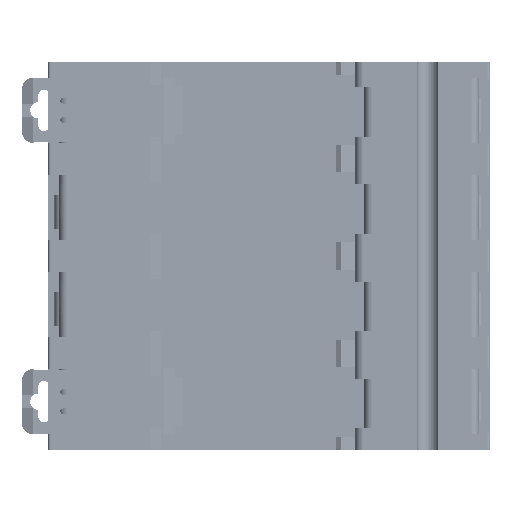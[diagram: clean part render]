
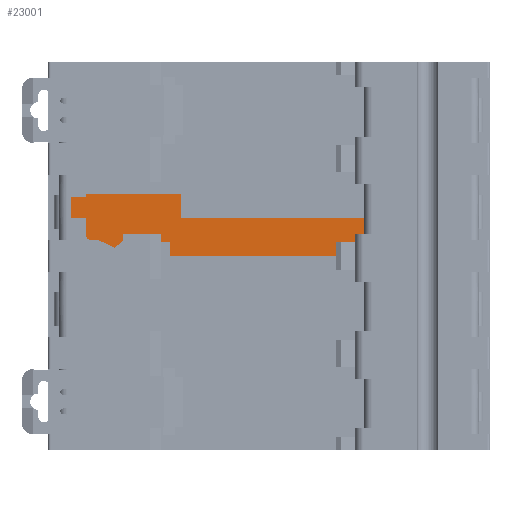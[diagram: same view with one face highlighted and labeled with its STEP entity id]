
A CAD part, front view. The second image highlights one B-rep face of the part: STEP entity #23001.
In plain terms, the highlighted planar face has unit normal (0, -1, 0).
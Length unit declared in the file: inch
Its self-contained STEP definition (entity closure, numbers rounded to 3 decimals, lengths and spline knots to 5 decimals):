
#679 = VECTOR ( 'NONE', #30014, 39.37008 ) ;
#966 = LINE ( 'NONE', #40791, #49043 ) ;
#2557 = CARTESIAN_POINT ( 'NONE',  ( -0.8937, 0., 0.05906 ) ) ;
#2577 = CARTESIAN_POINT ( 'NONE',  ( -0.71654, 0., 0.09843 ) ) ;
#2746 = EDGE_CURVE ( 'NONE', #47332, #24590, #64532, .T. ) ;
#2793 = AXIS2_PLACEMENT_3D ( 'NONE', #53399, #113365, #59371 ) ;
#3174 = LINE ( 'NONE', #63386, #63946 ) ;
#3475 = VECTOR ( 'NONE', #97469, 39.37008 ) ;
#3680 = CARTESIAN_POINT ( 'NONE',  ( -0.8937, 0., 0.05906 ) ) ;
#4951 = DIRECTION ( 'NONE',  ( -1., 0., 0. ) ) ;
#5762 = ORIENTED_EDGE ( 'NONE', *, *, #87451, .T. ) ;
#6257 = VERTEX_POINT ( 'NONE', #97704 ) ;
#6385 = LINE ( 'NONE', #50277, #96709 ) ;
#6906 = CARTESIAN_POINT ( 'NONE',  ( -0.71654, 0., 0.09843 ) ) ;
#7975 = VERTEX_POINT ( 'NONE', #105073 ) ;
#8285 = ORIENTED_EDGE ( 'NONE', *, *, #2746, .T. ) ;
#8661 = VECTOR ( 'NONE', #93874, 39.37008 ) ;
#9504 = ORIENTED_EDGE ( 'NONE', *, *, #71537, .T. ) ;
#10250 = ORIENTED_EDGE ( 'NONE', *, *, #44280, .F. ) ;
#10472 = DIRECTION ( 'NONE',  ( 0., 0., 1. ) ) ;
#10830 = CARTESIAN_POINT ( 'NONE',  ( -1.4311, 0., 0.44882 ) ) ;
#11336 = CARTESIAN_POINT ( 'NONE',  ( -1.05118, 0., 0.11417 ) ) ;
#12073 = VERTEX_POINT ( 'NONE', #67552 ) ;
#14019 = CARTESIAN_POINT ( 'NONE',  ( 1.17126, 0., 0.44882 ) ) ;
#14726 = DIRECTION ( 'NONE',  ( -1., 0., 0. ) ) ;
#16574 = ORIENTED_EDGE ( 'NONE', *, *, #80886, .T. ) ;
#16941 = CARTESIAN_POINT ( 'NONE',  ( -0.63583, 0., 0.44882 ) ) ;
#17767 = LINE ( 'NONE', #87424, #111019 ) ;
#18037 = CARTESIAN_POINT ( 'NONE',  ( -0.71654, 0., 0. ) ) ;
#20942 = CARTESIAN_POINT ( 'NONE',  ( 0.48031, 0., 0.09843 ) ) ;
#21785 = ORIENTED_EDGE ( 'NONE', *, *, #93125, .T. ) ;
#23001 = ADVANCED_FACE ( 'NONE', ( #45912 ), #107469, .T. ) ;
#24248 = VERTEX_POINT ( 'NONE', #53111 ) ;
#24267 = DIRECTION ( 'NONE',  ( 1., 0., 0. ) ) ;
#24376 = EDGE_CURVE ( 'NONE', #24248, #112833, #3174, .T. ) ;
#24441 = VECTOR ( 'NONE', #84099, 39.37008 ) ;
#24590 = VERTEX_POINT ( 'NONE', #3680 ) ;
#26360 = EDGE_CURVE ( 'NONE', #12073, #30231, #98922, .T. ) ;
#27255 = LINE ( 'NONE', #92745, #24441 ) ;
#27542 = LINE ( 'NONE', #20942, #679 ) ;
#27660 = VERTEX_POINT ( 'NONE', #16941 ) ;
#28919 = DIRECTION ( 'NONE',  ( 0., 0., 1. ) ) ;
#30014 = DIRECTION ( 'NONE',  ( 0., 0., -1. ) ) ;
#30231 = VERTEX_POINT ( 'NONE', #51343 ) ;
#30344 = LINE ( 'NONE', #88420, #3475 ) ;
#30393 = CARTESIAN_POINT ( 'NONE',  ( -1.05118, 0., 0.11417 ) ) ;
#32854 = VECTOR ( 'NONE', #90269, 39.37008 ) ;
#33149 = EDGE_CURVE ( 'NONE', #6257, #110013, #17767, .T. ) ;
#34181 = LINE ( 'NONE', #18037, #82238 ) ;
#34999 = EDGE_CURVE ( 'NONE', #50401, #42358, #92165, .T. ) ;
#38403 = VECTOR ( 'NONE', #56666, 39.37008 ) ;
#39326 = LINE ( 'NONE', #77527, #42164 ) ;
#39800 = CARTESIAN_POINT ( 'NONE',  ( -1.51575, 0., 0.11417 ) ) ;
#40314 = ORIENTED_EDGE ( 'NONE', *, *, #34999, .F. ) ;
#40634 = ORIENTED_EDGE ( 'NONE', *, *, #77474, .T. ) ;
#40791 = CARTESIAN_POINT ( 'NONE',  ( -1.51575, 0., 0.11417 ) ) ;
#42164 = VECTOR ( 'NONE', #14726, 39.37008 ) ;
#42358 = VERTEX_POINT ( 'NONE', #10830 ) ;
#44280 = EDGE_CURVE ( 'NONE', #7975, #95461, #6385, .T. ) ;
#45912 = FACE_OUTER_BOUND ( 'NONE', #71114, .T. ) ;
#46405 = CARTESIAN_POINT ( 'NONE',  ( -1.4311, 0., 0.11417 ) ) ;
#46456 = VERTEX_POINT ( 'NONE', #54231 ) ;
#47332 = VERTEX_POINT ( 'NONE', #30393 ) ;
#47341 = VECTOR ( 'NONE', #4951, 39.37008 ) ;
#49043 = VECTOR ( 'NONE', #103918, 39.37008 ) ;
#49235 = CARTESIAN_POINT ( 'NONE',  ( 0.68504, 0., 0. ) ) ;
#50087 = ORIENTED_EDGE ( 'NONE', *, *, #78637, .T. ) ;
#50157 = LINE ( 'NONE', #14019, #47341 ) ;
#50277 = CARTESIAN_POINT ( 'NONE',  ( 0.68504, 0., 0. ) ) ;
#50401 = VERTEX_POINT ( 'NONE', #74427 ) ;
#50744 = CARTESIAN_POINT ( 'NONE',  ( 0.62992, 0., 0. ) ) ;
#50932 = VECTOR ( 'NONE', #114368, 39.37008 ) ;
#51343 = CARTESIAN_POINT ( 'NONE',  ( -1.05122, 0., 0.11417 ) ) ;
#52644 = ORIENTED_EDGE ( 'NONE', *, *, #103347, .T. ) ;
#53111 = CARTESIAN_POINT ( 'NONE',  ( -0.8937, 0., 0.09843 ) ) ;
#53399 = CARTESIAN_POINT ( 'NONE',  ( -1.51575, 0., 0.11417 ) ) ;
#53959 = CARTESIAN_POINT ( 'NONE',  ( -1.22839, 0., 0.11417 ) ) ;
#54231 = CARTESIAN_POINT ( 'NONE',  ( -0.71654, 0., 0. ) ) ;
#55763 = CARTESIAN_POINT ( 'NONE',  ( 0.48031, 0., 0. ) ) ;
#56369 = DIRECTION ( 'NONE',  ( 0.944, 0., -0.33 ) ) ;
#56666 = DIRECTION ( 'NONE',  ( 0., 0., 1. ) ) ;
#59371 = DIRECTION ( 'NONE',  ( 1., 0., 0. ) ) ;
#60418 = EDGE_CURVE ( 'NONE', #30231, #47332, #966, .T. ) ;
#60983 = ORIENTED_EDGE ( 'NONE', *, *, #24376, .T. ) ;
#61701 = VECTOR ( 'NONE', #56369, 39.37008 ) ;
#63386 = CARTESIAN_POINT ( 'NONE',  ( -0.8937, 0., 0.09843 ) ) ;
#63946 = VECTOR ( 'NONE', #100010, 39.37008 ) ;
#64532 = LINE ( 'NONE', #11336, #61701 ) ;
#67552 = CARTESIAN_POINT ( 'NONE',  ( -1.11024, 0., 0.05906 ) ) ;
#68103 = LINE ( 'NONE', #2557, #38403 ) ;
#68832 = LINE ( 'NONE', #6906, #98443 ) ;
#69030 = CARTESIAN_POINT ( 'NONE',  ( -1.11024, 0., 0.05906 ) ) ;
#69720 = ORIENTED_EDGE ( 'NONE', *, *, #60418, .T. ) ;
#70073 = DIRECTION ( 'NONE',  ( 0., 0., -1. ) ) ;
#70774 = CARTESIAN_POINT ( 'NONE',  ( -1.22839, 0., 0.11417 ) ) ;
#71114 = EDGE_LOOP ( 'NONE', ( #98571, #77581, #52644, #98684, #10250, #87154, #9504, #116168, #40314, #50087, #21785, #75659, #69720, #8285, #40634, #60983, #16574, #5762 ) ) ;
#71537 = EDGE_CURVE ( 'NONE', #94179, #27660, #106423, .T. ) ;
#74427 = CARTESIAN_POINT ( 'NONE',  ( -1.4311, 0., 0.11417 ) ) ;
#75659 = ORIENTED_EDGE ( 'NONE', *, *, #26360, .T. ) ;
#77474 = EDGE_CURVE ( 'NONE', #24590, #24248, #68103, .T. ) ;
#77527 = CARTESIAN_POINT ( 'NONE',  ( 0.68504, 0., 0.27165 ) ) ;
#77581 = ORIENTED_EDGE ( 'NONE', *, *, #33149, .T. ) ;
#78637 = EDGE_CURVE ( 'NONE', #50401, #88817, #104653, .T. ) ;
#80886 = EDGE_CURVE ( 'NONE', #112833, #46456, #68832, .T. ) ;
#81215 = DIRECTION ( 'NONE',  ( 1., 0., 0. ) ) ;
#82238 = VECTOR ( 'NONE', #81215, 39.37008 ) ;
#82429 = VECTOR ( 'NONE', #28919, 39.37008 ) ;
#83745 = LINE ( 'NONE', #53959, #32854 ) ;
#84099 = DIRECTION ( 'NONE',  ( 0., 0., -1. ) ) ;
#86170 = DIRECTION ( 'NONE',  ( 0., 0., -1. ) ) ;
#87154 = ORIENTED_EDGE ( 'NONE', *, *, #106856, .T. ) ;
#87424 = CARTESIAN_POINT ( 'NONE',  ( 0.48031, 0., 0.09843 ) ) ;
#87451 = EDGE_CURVE ( 'NONE', #46456, #90681, #34181, .T. ) ;
#88354 = CARTESIAN_POINT ( 'NONE',  ( 0.62992, 0., 0.09843 ) ) ;
#88420 = CARTESIAN_POINT ( 'NONE',  ( -0.71654, 0., 0. ) ) ;
#88817 = VERTEX_POINT ( 'NONE', #70774 ) ;
#89353 = VECTOR ( 'NONE', #10472, 39.37008 ) ;
#90269 = DIRECTION ( 'NONE',  ( 0.906, 0., -0.423 ) ) ;
#90681 = VERTEX_POINT ( 'NONE', #55763 ) ;
#92165 = LINE ( 'NONE', #46405, #89353 ) ;
#92745 = CARTESIAN_POINT ( 'NONE',  ( 0.62992, 0., 0.09843 ) ) ;
#93125 = EDGE_CURVE ( 'NONE', #88817, #12073, #83745, .T. ) ;
#93874 = DIRECTION ( 'NONE',  ( 1., 0., 0. ) ) ;
#94179 = VERTEX_POINT ( 'NONE', #110700 ) ;
#95461 = VERTEX_POINT ( 'NONE', #49235 ) ;
#96709 = VECTOR ( 'NONE', #86170, 39.37008 ) ;
#97469 = DIRECTION ( 'NONE',  ( 1., 0., 0. ) ) ;
#97704 = CARTESIAN_POINT ( 'NONE',  ( 0.48031, 0., 0.09843 ) ) ;
#98443 = VECTOR ( 'NONE', #70073, 39.37008 ) ;
#98571 = ORIENTED_EDGE ( 'NONE', *, *, #111410, .F. ) ;
#98684 = ORIENTED_EDGE ( 'NONE', *, *, #115661, .T. ) ;
#98922 = LINE ( 'NONE', #69030, #50932 ) ;
#100010 = DIRECTION ( 'NONE',  ( 1., 0., 0. ) ) ;
#100690 = CARTESIAN_POINT ( 'NONE',  ( -0.63583, 0., 0.27165 ) ) ;
#103347 = EDGE_CURVE ( 'NONE', #110013, #110480, #27255, .T. ) ;
#103918 = DIRECTION ( 'NONE',  ( 1., 0., 0. ) ) ;
#104653 = LINE ( 'NONE', #39800, #8661 ) ;
#105073 = CARTESIAN_POINT ( 'NONE',  ( 0.68504, 0., 0.27165 ) ) ;
#106423 = LINE ( 'NONE', #100690, #82429 ) ;
#106856 = EDGE_CURVE ( 'NONE', #7975, #94179, #39326, .T. ) ;
#107469 = PLANE ( 'NONE',  #2793 ) ;
#110013 = VERTEX_POINT ( 'NONE', #88354 ) ;
#110480 = VERTEX_POINT ( 'NONE', #50744 ) ;
#110700 = CARTESIAN_POINT ( 'NONE',  ( -0.63583, 0., 0.27165 ) ) ;
#111019 = VECTOR ( 'NONE', #24267, 39.37008 ) ;
#111410 = EDGE_CURVE ( 'NONE', #6257, #90681, #27542, .T. ) ;
#112833 = VERTEX_POINT ( 'NONE', #2577 ) ;
#113365 = DIRECTION ( 'NONE',  ( 0., -1., 0. ) ) ;
#114368 = DIRECTION ( 'NONE',  ( 0.731, 0., 0.683 ) ) ;
#114773 = EDGE_CURVE ( 'NONE', #27660, #42358, #50157, .T. ) ;
#115661 = EDGE_CURVE ( 'NONE', #110480, #95461, #30344, .T. ) ;
#116168 = ORIENTED_EDGE ( 'NONE', *, *, #114773, .T. ) ;
